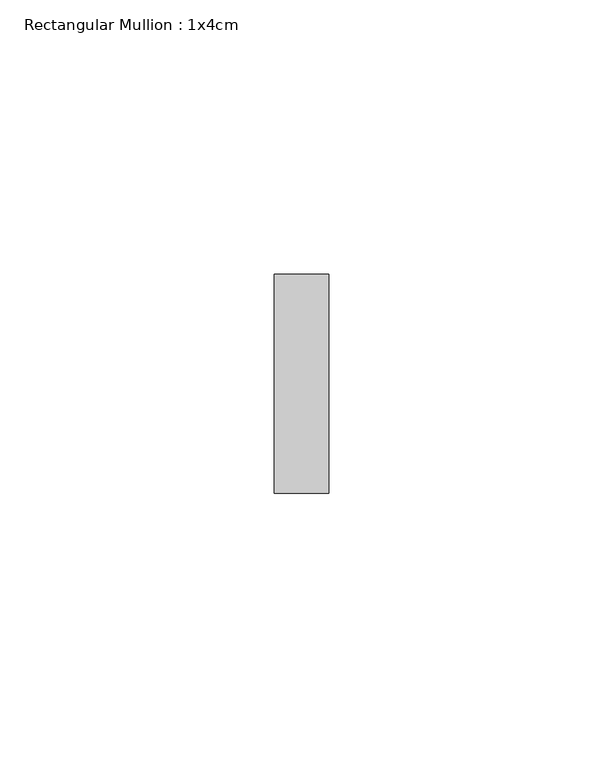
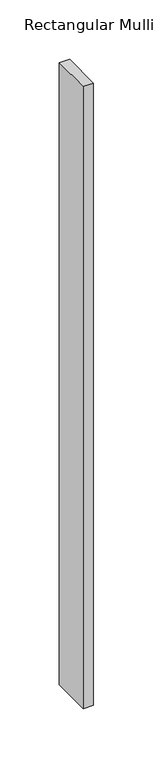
"""IFC4 building model written with IfcOpenShell, lengths in millimetres: member geometry, Rectangular Mullion : 1x4cm."""

from ifc_helpers import new_model, si_unit, frame, origin, place, context, project, spatial, polyline, outline, extrude, source, transform, mapped, element, save


def rectangular_mullion_1x4cm_9a775841(model_context):
    return source(origin(), model_context, "Body", "SweptSolid", [
        extrude(outline(polyline([(0.0, 20.0), (0.0, -20.0), (-10.0, -20.0), (-10.0, 20.0), (0.0, 20.0)])), frame((0.0, 0.0, -639.2393834), z_axis=(0.0, 0.0, 1.0), x_axis=(1.0, 0.0, 0.0)), (0.0, 0.0, 1.0), 639.2393834),
    ])


if __name__ == "__main__":
    model = new_model("IFC4")
    model_context = context("Model", 3, world=origin())
    ifc_project = project(units=[si_unit("LENGTHUNIT", "METRE", prefix="MILLI")], contexts=[model_context])
    site = spatial("IfcSite", under=ifc_project)
    building = spatial("IfcBuilding", under=site)
    placement = place(None, origin())
    rectangular_mullion_1x4cm_shape = rectangular_mullion_1x4cm_9a775841(model_context)
    element("IfcMember", 1, ObjectType="Rectangular Mullion : 1x4cm", at=placement, inside=building, context=model_context, shape_type="MappedRepresentation", body=[
        mapped(rectangular_mullion_1x4cm_shape, transform((0.0, 0.0, 0.0), x_axis=(1.0, 0.0, 0.0), y_axis=(0.0, 1.0, 0.0), z_axis=(0.0, 0.0, 1.0))),
    ])
    save(model, "model.ifc")
